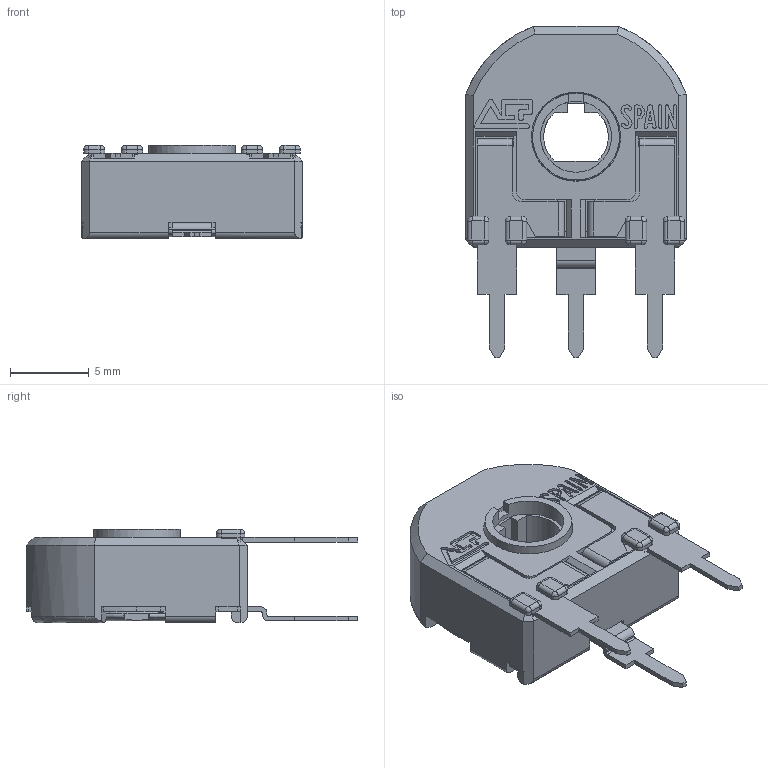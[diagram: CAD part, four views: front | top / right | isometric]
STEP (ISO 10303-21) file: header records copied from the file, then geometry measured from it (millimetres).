
FILE_DESCRIPTION(/* description */ (''),/* implementation_level */ '2;1');
FILE_NAME(/* name */ 'C:\Users\CEM\Desktop\ENVIAR\TRANSICION 3D CATALOGOS\CAR14TH5.stp',/* time_stamp */ '2025-09-22T10:01:31+02:00',/* author */ ('CEM'),/* organization */ (''),/* preprocessor_version */ 'ST-DEVELOPER v17',/* originating_system */ 'Autodesk Inventor 2018',/* authorisation */ '');
FILE_SCHEMA (('AUTOMOTIVE_DESIGN { 1 0 10303 214 3 1 1 }'));
Length unit declared in the file: millimetre
Products named in the file (1): CAR14TH5
Bounding box: 14 x 21 x 5.9 mm (x, y, z)
Volume: 541.8 mm3; surface area: 1522.3 mm2
Topology: 1 solids, 1 shells, 584 faces, 1696 edges, 1088 vertices
Faces by surface type: plane 396, cylinder 140, bspline 20, cone 16, torus 12
Full cylindrical faces by diameter (mm): 1.2 x2, 4.5 x1, 5.5 x1, 5.65 x1, 6.88 x1
Entity records: 19963 total; most frequent: CARTESIAN_POINT 3697, ORIENTED_EDGE 3392, DIRECTION 3183, EDGE_CURVE 1696, LINE 1255, VECTOR 1255, VERTEX_POINT 1088, AXIS2_PLACEMENT_3D 964
